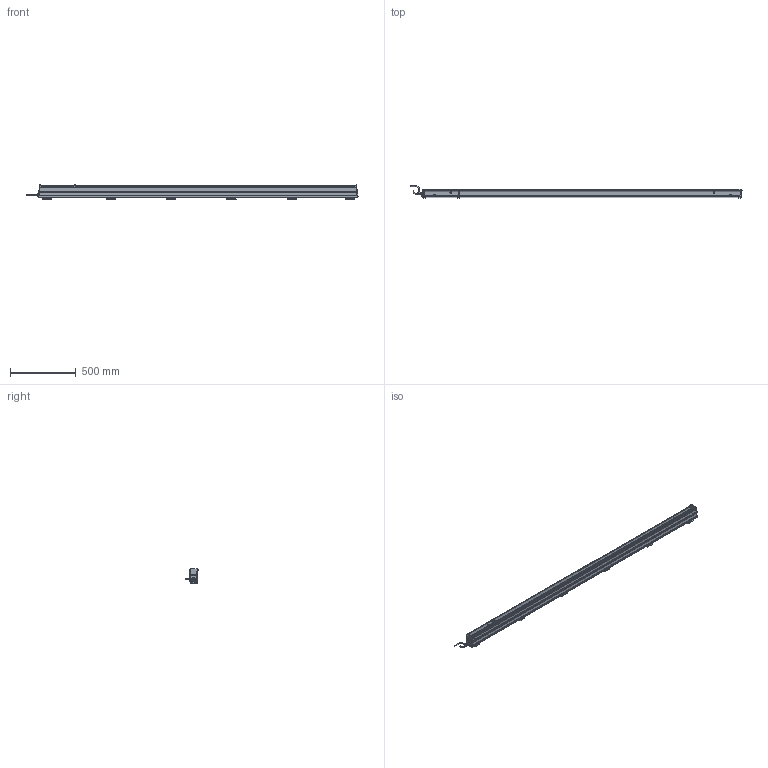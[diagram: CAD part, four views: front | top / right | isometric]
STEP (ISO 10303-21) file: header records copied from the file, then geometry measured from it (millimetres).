
FILE_DESCRIPTION(/* description */ (''),/* implementation_level */ '2;1');
FILE_NAME(/* name */ 'THUNDERION2_3D_2250-2445',/* time_stamp */ '2017-09-28T11:56:21+02:00',/* author */ (''),/* organization */ (''),/* preprocessor_version */ 'ST-DEVELOPER v15.7',/* originating_system */ 'HiCAD 2015 2002.1 Build 408',/* authorisation */ '');
FILE_SCHEMA (('AUTOMOTIVE_DESIGN { 1 0 10303 214 1 1 1 1 }'));
Products named in the file (118): Root; -_ThunderION 2250/2445; -_Side profile; -_Bar; -_Connector straight; EXTRUDED SOLID_0; -_Cord; REVOLVED SOLID_1; REVOLVED SOLID_3; DIN 13-M12x1,5; -_Connector angled; REVOLVED SOLID_2; 4532000100_Mounting bracket bars; -_Side piece; -_Slide piece; -_Bracket small; DIN 13-M3; DIN 76-M3; -_Cable End; light pipe M; light pipe L; -_Cap CE; -_Stud M4; -_Connector M12 male 5 pole_1; -_Contacts; ABSR_1_2_1_1_Inner part; ABSR_1_2_1_2_Inner part; bus; Pg 9; -_Ring tongue terminal; 9230000020_Nut M4; GEWINDE; 9240100020_Spring washer M4; ISO 7051-ST3.5x9.5-C-H_Tapping screws_0; -_Fill; -_Dead end; -_Cap DE; -_Emitter; -_Support Side Profile; -_End Plate
Assembly tree (117 placements, depth 6):
  Root
    -_ThunderION 2250/2445
      -_Side profile
      -_Side profile
      -_Bar
      -_Connector straight
        EXTRUDED SOLID_0
        -_Cord
        REVOLVED SOLID_1
        REVOLVED SOLID_3
          DIN 13-M12x1,5
      -_Connector angled
        REVOLVED SOLID_1
        EXTRUDED SOLID_0
        -_Cord
        REVOLVED SOLID_2
        REVOLVED SOLID_3
          DIN 13-M12x1,5
      4532000100_Mounting bracket bars
        -_Side piece
        -_Side piece
        -_Slide piece
        -_Bracket small
          DIN 13-M3
          DIN 13-M3
          DIN 76-M3
          DIN 76-M3
      4532000100_Mounting bracket bars
        -_Side piece
        -_Side piece
        -_Slide piece
        -_Bracket small
          DIN 13-M3
          DIN 13-M3
          DIN 76-M3
          DIN 76-M3
      4532000100_Mounting bracket bars
        -_Side piece
        -_Side piece
        -_Slide piece
        -_Bracket small
          DIN 13-M3
          DIN 13-M3
          DIN 76-M3
          DIN 76-M3
      4532000100_Mounting bracket bars
        -_Side piece
        -_Side piece
        -_Slide piece
        -_Bracket small
          DIN 13-M3
          DIN 13-M3
          DIN 76-M3
          DIN 76-M3
      4532000100_Mounting bracket bars
        -_Side piece
        -_Side piece
        -_Slide piece
        -_Bracket small
          DIN 13-M3
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Bounding box: 2523.34 x 92.25 x 113 mm (x, y, z)
Volume: 7731177.5 mm3; surface area: 1797468.2 mm2
Topology: 109 solids, 127 shells, 5481 faces, 14031 edges, 8509 vertices
Faces by surface type: plane 2289, cylinder 2170, bspline 312, torus 284, sphere 253, cone 173
Full cylindrical faces by diameter (mm): 0.8 x10, 1 x10, 2.387 x24, 2.5 x1, 2.64 x16, 3 x48, 3.141 x2, 3.5 x8, 4 x26, 4.2 x3, 4.4 x1, 5 x4, 5.5 x30, 7.3 x8, 8 x2, 8.4 x2, 9 x6, 9.6 x1, 10 x2, 10.16 x1, 10.5 x2, 11 x4, 12 x5, 12.8 x1, 13.8 x4, 13.86 x1, 14.5 x3, 15.199 x1, 15.2 x1
Entity records: 326921 total; most frequent: CARTESIAN_POINT 91888, DIRECTION 27093, PRESENTATION_STYLE_ASSIGNMENT 26525, OVER_RIDING_STYLED_ITEM 26420, DRAUGHTING_PRE_DEFINED_CURVE_FONT 26378, CURVE_STYLE 26378, ORIENTED_EDGE 26378, EDGE_CURVE 13189
